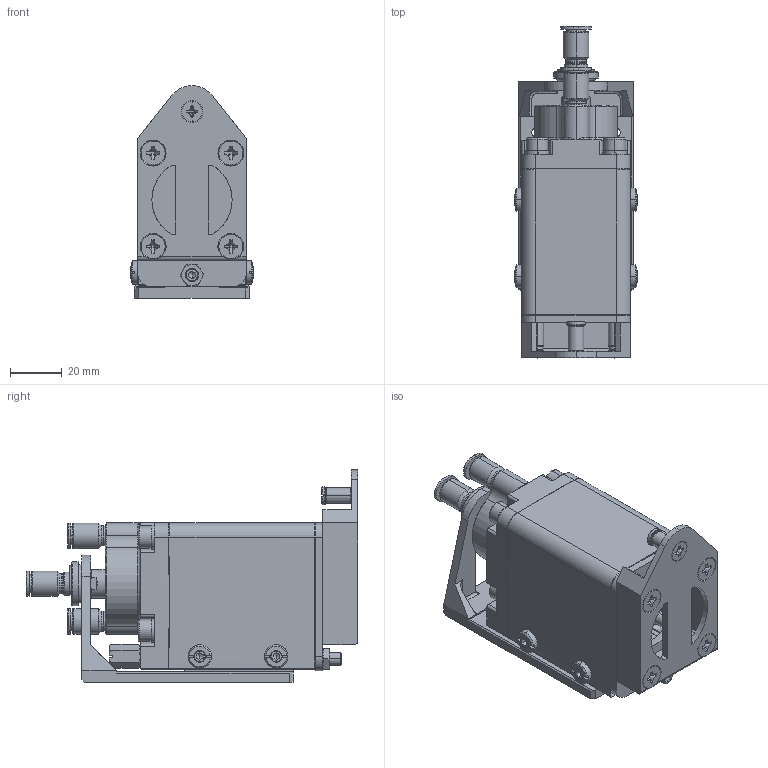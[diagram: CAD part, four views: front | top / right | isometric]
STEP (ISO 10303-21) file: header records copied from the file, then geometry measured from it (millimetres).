
FILE_DESCRIPTION (( 'STEP AP214' ), '1' );
FILE_NAME ('GT-NY25S.STEP', '2019-11-27T02:10:30', ( '微软用户' ), ( '微软中国' ), 'SwSTEP 2.0', 'SolidWorks 2016', '' );
FILE_SCHEMA (( 'AUTOMOTIVE_DESIGN' ));
Length unit declared in the file: millimetre
Products named in the file (1): GT-NY25S
Bounding box: 47.2 x 128 x 82 mm (x, y, z)
Surface area: 58718.1 mm2 (no closed solid volume)
Topology: 0 solids, 38 shells, 1047 faces, 2730 edges, 1771 vertices
Faces by surface type: plane 470, cylinder 312, bspline 169, cone 53, torus 43
Entity records: 47603 total; most frequent: CARTESIAN_POINT 16770, ORIENTED_EDGE 5321, DIRECTION 4627, EDGE_CURVE 2708, VERTEX_POINT 1771, AXIS2_PLACEMENT_3D 1723, LINE 1181, VECTOR 1181
